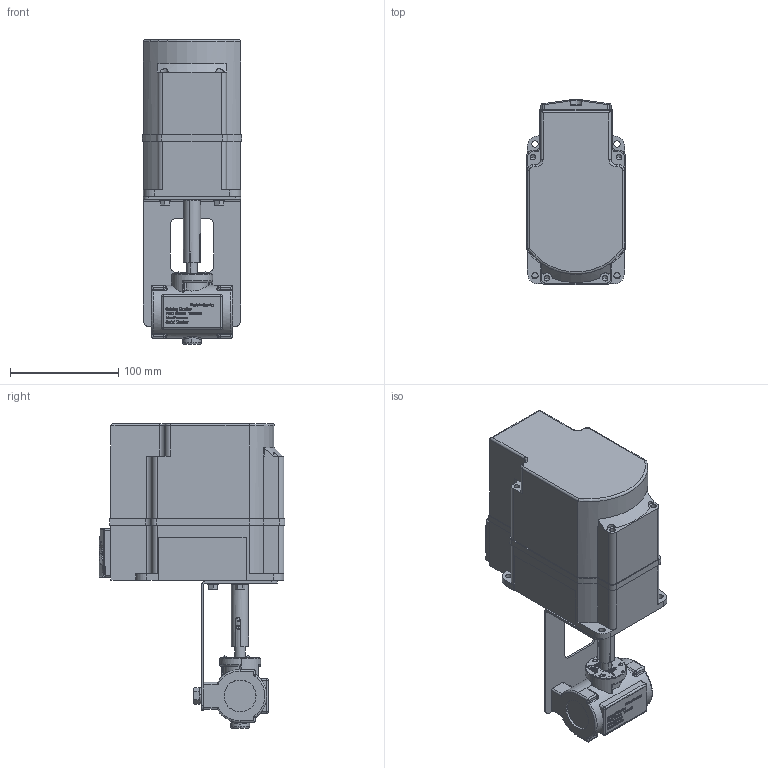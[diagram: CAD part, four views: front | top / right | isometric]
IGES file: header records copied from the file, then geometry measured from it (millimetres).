
Global section: file name: No Iges File Name specified; native system: AutoDesk Inventor R12.0; preprocessor: AutoDesk Inventor Iges Exporter R12.0; date: 20110328.091338; units: millimetre
Bounding box: 92 x 171.99 x 282 mm (x, y, z)
Volume: 2049627.2 mm3; surface area: 164371.6 mm2
Topology: 1 solids, 15 shells, 2808 faces, 7528 edges, 4909 vertices
Faces by surface type: plane 1485, bspline 958, cylinder 188, revolution 91, cone 47, torus 29, sphere 10
Full cylindrical faces by diameter (mm): 9.2 x3, 14.8 x2
